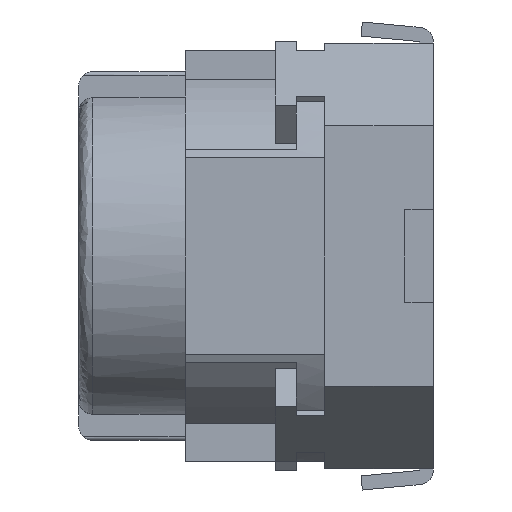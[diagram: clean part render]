
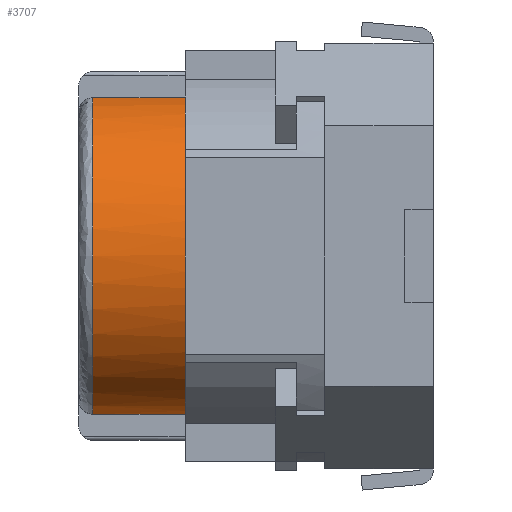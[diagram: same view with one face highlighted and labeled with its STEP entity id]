
A CAD part, left-side view. The second image highlights one B-rep face of the part: STEP entity #3707.
In plain terms, the highlighted cylindrical face has radius 2.3 mm (diameter 4.6 mm), a partial arc.
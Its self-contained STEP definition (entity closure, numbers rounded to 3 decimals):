
#53 = ORIENTED_EDGE ( 'NONE', *, *, #5310, .T. ) ;
#122 = VECTOR ( 'NONE', #2358, 1000. ) ;
#328 = CARTESIAN_POINT ( 'NONE',  ( -0.55, 4.8, -2.233 ) ) ;
#729 = CYLINDRICAL_SURFACE ( 'NONE', #2135, 2.3 ) ;
#858 = B_SPLINE_CURVE_WITH_KNOTS ( 'NONE', 3,
 ( #5002, #5102, #4921, #4899, #4880, #4858, #4624, #4547, #4530, #4506, #4483, #4461, #4440, #4417, #4391, #4369, #4143, #4067, #4049, #4027, #4007, #3984, #3954, #3935, #3914, #3897, #3655, #3634, #3578, #3562, #3535, #3512, #3481, #3462 ),
 .UNSPECIFIED., .F., .F.,
 ( 4, 1, 1, 2, 2, 2, 1, 1, 2, 2, 2, 1, 1, 2, 2, 2, 1, 1, 2, 2, 4 ),
 ( 0., 0.062, 0.094, 0.109, 0.125, 0.25, 0.312, 0.344, 0.359, 0.375, 0.5, 0.562, 0.594, 0.609, 0.625, 0.75, 0.812, 0.844, 0.859, 0.875, 1. ),
 .UNSPECIFIED. ) ;
#1082 = DIRECTION ( 'NONE',  ( 0., 0., -1. ) ) ;
#1102 = DIRECTION ( 'NONE',  ( 0., -1., 0. ) ) ;
#1228 = LINE ( 'NONE', #5371, #3269 ) ;
#1241 = CARTESIAN_POINT ( 'NONE',  ( 0., 4.8, 0. ) ) ;
#1387 = CARTESIAN_POINT ( 'NONE',  ( -0.55, 3.5, 2.233 ) ) ;
#1553 = LINE ( 'NONE', #2417, #122 ) ;
#1725 = VERTEX_POINT ( 'NONE', #3318 ) ;
#1833 = ORIENTED_EDGE ( 'NONE', *, *, #3766, .T. ) ;
#1987 = VERTEX_POINT ( 'NONE', #2728 ) ;
#2117 = ORIENTED_EDGE ( 'NONE', *, *, #5469, .T. ) ;
#2135 = AXIS2_PLACEMENT_3D ( 'NONE', #3996, #4992, #3968 ) ;
#2358 = DIRECTION ( 'NONE',  ( 0., -1., 0. ) ) ;
#2417 = CARTESIAN_POINT ( 'NONE',  ( -0.55, 5., -2.233 ) ) ;
#2728 = CARTESIAN_POINT ( 'NONE',  ( -0.55, 4.8, 2.233 ) ) ;
#3038 = AXIS2_PLACEMENT_3D ( 'NONE', #1241, #1102, #1082 ) ;
#3269 = VECTOR ( 'NONE', #5415, 1000. ) ;
#3318 = CARTESIAN_POINT ( 'NONE',  ( -0.55, 3.5, -2.233 ) ) ;
#3462 = CARTESIAN_POINT ( 'NONE',  ( -0.55, 3.5, -2.233 ) ) ;
#3481 = CARTESIAN_POINT ( 'NONE',  ( -0.793, 3.5, -2.173 ) ) ;
#3492 = EDGE_CURVE ( 'NONE', #6232, #1725, #858, .T. ) ;
#3512 = CARTESIAN_POINT ( 'NONE',  ( -1.02, 3.5, -2.077 ) ) ;
#3535 = CARTESIAN_POINT ( 'NONE',  ( -1.257, 3.5, -1.927 ) ) ;
#3562 = CARTESIAN_POINT ( 'NONE',  ( -1.286, 3.5, -1.907 ) ) ;
#3578 = CARTESIAN_POINT ( 'NONE',  ( -1.34, 3.5, -1.87 ) ) ;
#3589 = CIRCLE ( 'NONE', #3038, 2.3 ) ;
#3634 = CARTESIAN_POINT ( 'NONE',  ( -1.419, 3.5, -1.812 ) ) ;
#3655 = CARTESIAN_POINT ( 'NONE',  ( -1.595, 3.5, -1.666 ) ) ;
#3707 = ADVANCED_FACE ( 'NONE', ( #6351 ), #729, .T. ) ;
#3766 = EDGE_CURVE ( 'NONE', #4978, #1725, #1553, .T. ) ;
#3897 = CARTESIAN_POINT ( 'NONE',  ( -1.729, 3.5, -1.523 ) ) ;
#3914 = CARTESIAN_POINT ( 'NONE',  ( -1.973, 3.5, -1.211 ) ) ;
#3935 = CARTESIAN_POINT ( 'NONE',  ( -2.097, 3.5, -0.98 ) ) ;
#3954 = CARTESIAN_POINT ( 'NONE',  ( -2.192, 3.5, -0.698 ) ) ;
#3968 = DIRECTION ( 'NONE',  ( 0., 0., -1. ) ) ;
#3984 = CARTESIAN_POINT ( 'NONE',  ( -2.2, 3.5, -0.67 ) ) ;
#3996 = CARTESIAN_POINT ( 'NONE',  ( 0., 5., 0. ) ) ;
#4007 = CARTESIAN_POINT ( 'NONE',  ( -2.218, 3.5, -0.611 ) ) ;
#4027 = CARTESIAN_POINT ( 'NONE',  ( -2.242, 3.5, -0.521 ) ) ;
#4049 = CARTESIAN_POINT ( 'NONE',  ( -2.285, 3.5, -0.309 ) ) ;
#4067 = CARTESIAN_POINT ( 'NONE',  ( -2.3, 3.5, -0.125 ) ) ;
#4143 = CARTESIAN_POINT ( 'NONE',  ( -2.3, 3.5, 0.249 ) ) ;
#4369 = CARTESIAN_POINT ( 'NONE',  ( -2.26, 3.5, 0.493 ) ) ;
#4391 = CARTESIAN_POINT ( 'NONE',  ( -2.171, 3.5, 0.759 ) ) ;
#4417 = CARTESIAN_POINT ( 'NONE',  ( -2.159, 3.5, 0.792 ) ) ;
#4440 = CARTESIAN_POINT ( 'NONE',  ( -2.136, 3.5, 0.854 ) ) ;
#4461 = CARTESIAN_POINT ( 'NONE',  ( -2.099, 3.5, 0.945 ) ) ;
#4483 = CARTESIAN_POINT ( 'NONE',  ( -1.999, 3.5, 1.151 ) ) ;
#4506 = CARTESIAN_POINT ( 'NONE',  ( -1.892, 3.5, 1.315 ) ) ;
#4530 = CARTESIAN_POINT ( 'NONE',  ( -1.647, 3.5, 1.627 ) ) ;
#4547 = CARTESIAN_POINT ( 'NONE',  ( -1.454, 3.5, 1.802 ) ) ;
#4624 = CARTESIAN_POINT ( 'NONE',  ( -1.202, 3.5, 1.961 ) ) ;
#4858 = CARTESIAN_POINT ( 'NONE',  ( -1.177, 3.5, 1.976 ) ) ;
#4880 = CARTESIAN_POINT ( 'NONE',  ( -1.124, 3.5, 2.007 ) ) ;
#4899 = CARTESIAN_POINT ( 'NONE',  ( -1.042, 3.5, 2.052 ) ) ;
#4921 = CARTESIAN_POINT ( 'NONE',  ( -0.847, 3.5, 2.145 ) ) ;
#4943 = EDGE_LOOP ( 'NONE', ( #2117, #53, #1833, #5676 ) ) ;
#4978 = VERTEX_POINT ( 'NONE', #328 ) ;
#4992 = DIRECTION ( 'NONE',  ( 0., -1., 0. ) ) ;
#5002 = CARTESIAN_POINT ( 'NONE',  ( -0.55, 3.5, 2.233 ) ) ;
#5102 = CARTESIAN_POINT ( 'NONE',  ( -0.671, 3.5, 2.203 ) ) ;
#5310 = EDGE_CURVE ( 'NONE', #1987, #4978, #3589, .T. ) ;
#5371 = CARTESIAN_POINT ( 'NONE',  ( -0.55, 5., 2.233 ) ) ;
#5415 = DIRECTION ( 'NONE',  ( 0., 1., 0. ) ) ;
#5469 = EDGE_CURVE ( 'NONE', #6232, #1987, #1228, .T. ) ;
#5676 = ORIENTED_EDGE ( 'NONE', *, *, #3492, .F. ) ;
#6232 = VERTEX_POINT ( 'NONE', #1387 ) ;
#6351 = FACE_OUTER_BOUND ( 'NONE', #4943, .T. ) ;
